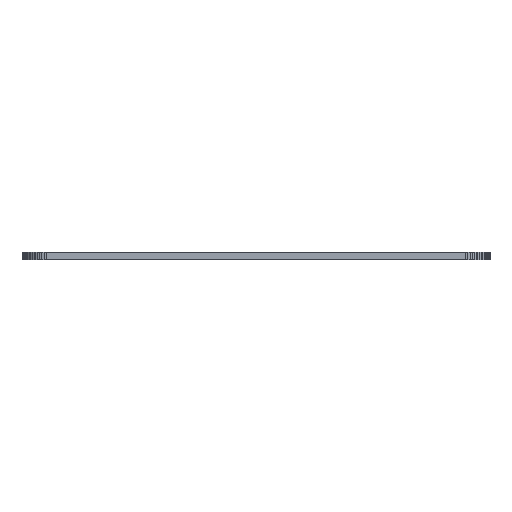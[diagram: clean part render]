
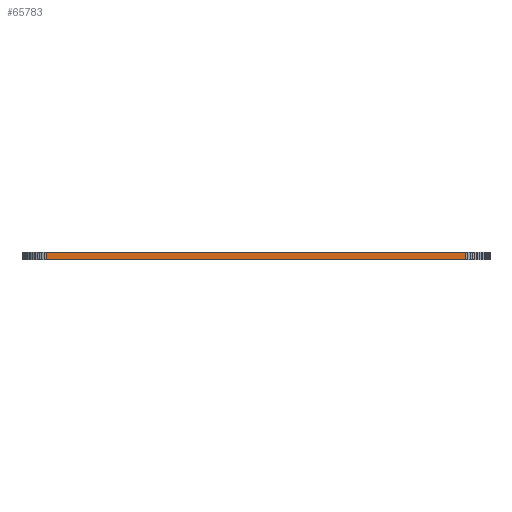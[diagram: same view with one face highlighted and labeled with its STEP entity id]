
A CAD part, front view. The second image highlights one B-rep face of the part: STEP entity #65783.
In plain terms, the highlighted planar face has unit normal (0, -1, 0).
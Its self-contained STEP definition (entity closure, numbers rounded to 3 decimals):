
#90 = PLANE('',#91);
#91 = AXIS2_PLACEMENT_3D('',#92,#93,#94);
#92 = CARTESIAN_POINT('',(91.5,-105.,1.55));
#93 = DIRECTION('',(-0.,-0.,-1.));
#94 = DIRECTION('',(-1.,0.,0.));
#144 = PLANE('',#145);
#145 = AXIS2_PLACEMENT_3D('',#146,#147,#148);
#146 = CARTESIAN_POINT('',(91.5,-105.,0.));
#147 = DIRECTION('',(-0.,-0.,-1.));
#148 = DIRECTION('',(-1.,0.,0.));
#1233 = VERTEX_POINT('',#1234);
#1234 = CARTESIAN_POINT('',(135.,-180.,0.));
#1248 = PLANE('',#1249);
#1249 = AXIS2_PLACEMENT_3D('',#1250,#1251,#1252);
#1250 = CARTESIAN_POINT('',(135.436,-179.981,0.));
#1251 = DIRECTION('',(0.044,-0.999,0.));
#1252 = DIRECTION('',(-0.999,-0.044,0.));
#1260 = EDGE_CURVE('',#1233,#1261,#1263,.T.);
#1261 = VERTEX_POINT('',#1262);
#1262 = CARTESIAN_POINT('',(48.,-180.,0.));
#1263 = SURFACE_CURVE('',#1264,(#1268,#1275),.PCURVE_S1.);
#1264 = LINE('',#1265,#1266);
#1265 = CARTESIAN_POINT('',(135.,-180.,0.));
#1266 = VECTOR('',#1267,1.);
#1267 = DIRECTION('',(-1.,0.,0.));
#1268 = PCURVE('',#144,#1269);
#1269 = DEFINITIONAL_REPRESENTATION('',(#1270),#1274);
#1270 = LINE('',#1271,#1272);
#1271 = CARTESIAN_POINT('',(-43.5,-75.));
#1272 = VECTOR('',#1273,1.);
#1273 = DIRECTION('',(1.,0.));
#1274 = ( GEOMETRIC_REPRESENTATION_CONTEXT(2) 
PARAMETRIC_REPRESENTATION_CONTEXT() REPRESENTATION_CONTEXT('2D SPACE',''
  ) );
#1275 = PCURVE('',#1276,#1281);
#1276 = PLANE('',#1277);
#1277 = AXIS2_PLACEMENT_3D('',#1278,#1279,#1280);
#1278 = CARTESIAN_POINT('',(135.,-180.,0.));
#1279 = DIRECTION('',(0.,-1.,0.));
#1280 = DIRECTION('',(-1.,0.,0.));
#1281 = DEFINITIONAL_REPRESENTATION('',(#1282),#1286);
#1282 = LINE('',#1283,#1284);
#1283 = CARTESIAN_POINT('',(0.,-0.));
#1284 = VECTOR('',#1285,1.);
#1285 = DIRECTION('',(1.,0.));
#1286 = ( GEOMETRIC_REPRESENTATION_CONTEXT(2) 
PARAMETRIC_REPRESENTATION_CONTEXT() REPRESENTATION_CONTEXT('2D SPACE',''
  ) );
#1304 = PLANE('',#1305);
#1305 = AXIS2_PLACEMENT_3D('',#1306,#1307,#1308);
#1306 = CARTESIAN_POINT('',(48.,-180.,0.));
#1307 = DIRECTION('',(-0.044,-0.999,0.));
#1308 = DIRECTION('',(-0.999,0.044,0.));
#35907 = VERTEX_POINT('',#35908);
#35908 = CARTESIAN_POINT('',(135.,-180.,1.55));
#35929 = EDGE_CURVE('',#35907,#35930,#35932,.T.);
#35930 = VERTEX_POINT('',#35931);
#35931 = CARTESIAN_POINT('',(48.,-180.,1.55));
#35932 = SURFACE_CURVE('',#35933,(#35937,#35944),.PCURVE_S1.);
#35933 = LINE('',#35934,#35935);
#35934 = CARTESIAN_POINT('',(135.,-180.,1.55));
#35935 = VECTOR('',#35936,1.);
#35936 = DIRECTION('',(-1.,0.,0.));
#35937 = PCURVE('',#90,#35938);
#35938 = DEFINITIONAL_REPRESENTATION('',(#35939),#35943);
#35939 = LINE('',#35940,#35941);
#35940 = CARTESIAN_POINT('',(-43.5,-75.));
#35941 = VECTOR('',#35942,1.);
#35942 = DIRECTION('',(1.,0.));
#35943 = ( GEOMETRIC_REPRESENTATION_CONTEXT(2) 
PARAMETRIC_REPRESENTATION_CONTEXT() REPRESENTATION_CONTEXT('2D SPACE',''
  ) );
#35944 = PCURVE('',#1276,#35945);
#35945 = DEFINITIONAL_REPRESENTATION('',(#35946),#35950);
#35946 = LINE('',#35947,#35948);
#35947 = CARTESIAN_POINT('',(0.,-1.55));
#35948 = VECTOR('',#35949,1.);
#35949 = DIRECTION('',(1.,0.));
#35950 = ( GEOMETRIC_REPRESENTATION_CONTEXT(2) 
PARAMETRIC_REPRESENTATION_CONTEXT() REPRESENTATION_CONTEXT('2D SPACE',''
  ) );
#65735 = EDGE_CURVE('',#1233,#35907,#65736,.T.);
#65736 = SURFACE_CURVE('',#65737,(#65741,#65748),.PCURVE_S1.);
#65737 = LINE('',#65738,#65739);
#65738 = CARTESIAN_POINT('',(135.,-180.,0.));
#65739 = VECTOR('',#65740,1.);
#65740 = DIRECTION('',(0.,0.,1.));
#65741 = PCURVE('',#1248,#65742);
#65742 = DEFINITIONAL_REPRESENTATION('',(#65743),#65747);
#65743 = LINE('',#65744,#65745);
#65744 = CARTESIAN_POINT('',(0.436,0.));
#65745 = VECTOR('',#65746,1.);
#65746 = DIRECTION('',(0.,-1.));
#65747 = ( GEOMETRIC_REPRESENTATION_CONTEXT(2) 
PARAMETRIC_REPRESENTATION_CONTEXT() REPRESENTATION_CONTEXT('2D SPACE',''
  ) );
#65748 = PCURVE('',#1276,#65749);
#65749 = DEFINITIONAL_REPRESENTATION('',(#65750),#65754);
#65750 = LINE('',#65751,#65752);
#65751 = CARTESIAN_POINT('',(0.,-0.));
#65752 = VECTOR('',#65753,1.);
#65753 = DIRECTION('',(0.,-1.));
#65754 = ( GEOMETRIC_REPRESENTATION_CONTEXT(2) 
PARAMETRIC_REPRESENTATION_CONTEXT() REPRESENTATION_CONTEXT('2D SPACE',''
  ) );
#65783 = ADVANCED_FACE('',(#65784),#1276,.T.);
#65784 = FACE_BOUND('',#65785,.T.);
#65785 = EDGE_LOOP('',(#65786,#65787,#65788,#65809));
#65786 = ORIENTED_EDGE('',*,*,#65735,.T.);
#65787 = ORIENTED_EDGE('',*,*,#35929,.T.);
#65788 = ORIENTED_EDGE('',*,*,#65789,.F.);
#65789 = EDGE_CURVE('',#1261,#35930,#65790,.T.);
#65790 = SURFACE_CURVE('',#65791,(#65795,#65802),.PCURVE_S1.);
#65791 = LINE('',#65792,#65793);
#65792 = CARTESIAN_POINT('',(48.,-180.,0.));
#65793 = VECTOR('',#65794,1.);
#65794 = DIRECTION('',(0.,0.,1.));
#65795 = PCURVE('',#1276,#65796);
#65796 = DEFINITIONAL_REPRESENTATION('',(#65797),#65801);
#65797 = LINE('',#65798,#65799);
#65798 = CARTESIAN_POINT('',(87.,0.));
#65799 = VECTOR('',#65800,1.);
#65800 = DIRECTION('',(0.,-1.));
#65801 = ( GEOMETRIC_REPRESENTATION_CONTEXT(2) 
PARAMETRIC_REPRESENTATION_CONTEXT() REPRESENTATION_CONTEXT('2D SPACE',''
  ) );
#65802 = PCURVE('',#1304,#65803);
#65803 = DEFINITIONAL_REPRESENTATION('',(#65804),#65808);
#65804 = LINE('',#65805,#65806);
#65805 = CARTESIAN_POINT('',(0.,0.));
#65806 = VECTOR('',#65807,1.);
#65807 = DIRECTION('',(0.,-1.));
#65808 = ( GEOMETRIC_REPRESENTATION_CONTEXT(2) 
PARAMETRIC_REPRESENTATION_CONTEXT() REPRESENTATION_CONTEXT('2D SPACE',''
  ) );
#65809 = ORIENTED_EDGE('',*,*,#1260,.F.);
